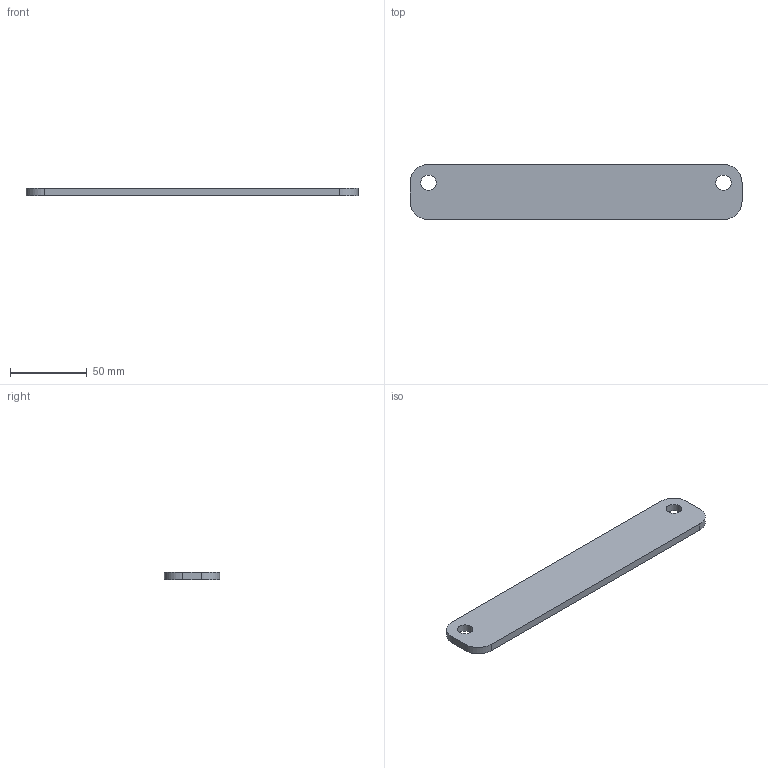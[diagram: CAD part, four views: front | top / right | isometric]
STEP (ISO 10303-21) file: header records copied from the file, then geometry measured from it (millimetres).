
FILE_DESCRIPTION(/* description */ (''),/* implementation_level */ '2;1');
FILE_NAME(/* name */ 'D:\3d\leaf_upper_spacer.stp',/* time_stamp */ '2019-11-10T16:37:39-08:00',/* author */ ('RUARK'),/* organization */ (''),/* preprocessor_version */ 'ST-DEVELOPER v18',/* originating_system */ 'Autodesk Inventor 2020',/* authorisation */ '');
FILE_SCHEMA (('AUTOMOTIVE_DESIGN { 1 0 10303 214 3 1 1 }'));
Length unit declared in the file: millimetre
Products named in the file (1): leaf_upper_spacer
Bounding box: 215.87 x 36 x 5 mm (x, y, z)
Volume: 37453.1 mm3; surface area: 17711.1 mm2
Topology: 1 solids, 1 shells, 12 faces, 30 edges, 20 vertices
Faces by surface type: cylinder 6, plane 6
Full cylindrical faces by diameter (mm): 10 x2
Entity records: 415 total; most frequent: DIRECTION 68, CARTESIAN_POINT 63, ORIENTED_EDGE 60, EDGE_CURVE 30, AXIS2_PLACEMENT_3D 25, VERTEX_POINT 20, LINE 18, VECTOR 18
